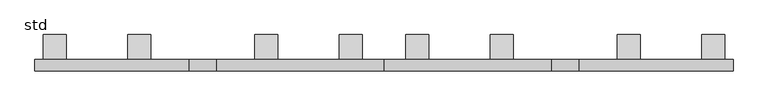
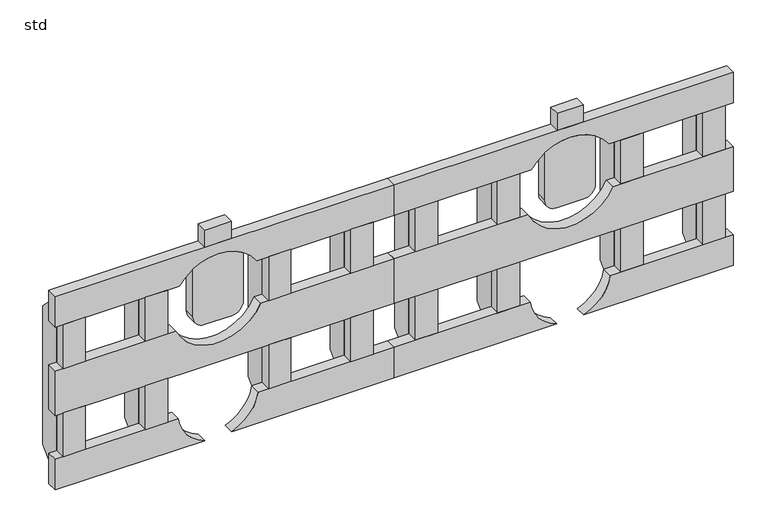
"""IFC4 building model written with IfcOpenShell, lengths in millimetres: unitary equipment geometry, Z_ME_UN_Aquacell_NG_Lateral_Side_Plate_Wavin_(nested) : std."""

from ifc_helpers import new_model, si_unit, point, frame, frame_2d, origin, place, context, project, spatial, polyline, circle_curve, trimmed, segment, composite_curve, outline, extrude, source, transform, mapped, element, save
from ifc_brep_helpers import plane_surface, revolved_surface, advanced_brep


def std_5ed7479e(model_context):
    return source(origin(), model_context, "Body", "SolidModel", [
        extrude(outline(composite_curve([segment(trimmed(circle_curve(frame_2d((264.0, 877.0)), 20.0), [point((264.0, 857.0))], [point((244.0, 877.0))], False, "CARTESIAN"), True, "CONTINUOUS"), segment(polyline([(244.0, 877.0), (244.0, 923.0)]), True, "CONTINUOUS"), segment(trimmed(circle_curve(frame_2d((264.0, 923.0)), 20.0), [point((244.0, 923.0))], [point((264.0, 943.0))], False, "CARTESIAN"), True, "CONTINUOUS"), segment(polyline([(264.0, 943.0), (350.4610999, 943.0)]), True, "CONTINUOUS"), segment(trimmed(circle_curve(frame_2d((283.0, 900.0)), 80.0), [point((350.4610999, 943.0))], [point((350.4610999, 857.0))], False, "CARTESIAN"), True, "CONTINUOUS"), segment(polyline([(350.4610999, 857.0), (264.0, 857.0)]), True, "CONTINUOUS")], self_intersect=False)), frame((0.0, 0.0, 0.0), z_axis=(0.0, 1.0, 0.0), x_axis=(0.0, 0.0, 1.0)), (0.0, 0.0, 1.0), 19.0),
        extrude(outline(composite_curve([segment(trimmed(circle_curve(frame_2d((264.0, 277.0)), 20.0), [point((264.0, 257.0))], [point((244.0, 277.0))], False, "CARTESIAN"), True, "CONTINUOUS"), segment(polyline([(244.0, 277.0), (244.0, 323.0)]), True, "CONTINUOUS"), segment(trimmed(circle_curve(frame_2d((264.0, 323.0)), 20.0), [point((244.0, 323.0))], [point((264.0, 343.0))], False, "CARTESIAN"), True, "CONTINUOUS"), segment(polyline([(264.0, 343.0), (350.4610999, 343.0)]), True, "CONTINUOUS"), segment(trimmed(circle_curve(frame_2d((283.0, 300.0)), 80.0), [point((350.4610999, 343.0))], [point((350.4610999, 257.0))], False, "CARTESIAN"), True, "CONTINUOUS"), segment(polyline([(350.4610999, 257.0), (264.0, 257.0)]), True, "CONTINUOUS")], self_intersect=False)), frame((0.0, 0.0, 0.0), z_axis=(0.0, 1.0, 0.0), x_axis=(0.0, 0.0, 1.0)), (0.0, 0.0, 1.0), 19.0),
        advanced_brep(
        [(972.415468, 19.0, 249.0), (827.584532, 19.0, 249.0), (827.584532, 0.0, 249.0), (972.415468, 0.0, 249.0), (1177.5, 19.0, 249.0), (1177.5, 19.0, 169.0), (900.0, 19.0, 169.0), (600.0, 19.0, 169.0), (600.0, 19.0, 249.0), (600.0, 0.0, 249.0), (600.0, 0.0, 169.0), (900.0, 0.0, 169.0), (1177.5, 0.0, 169.0), (1177.5, 0.0, 249.0)],
        [
            (0, 1, circle_curve(frame((900.0, 19.0, 283.0), z_axis=(0.0, 1.0, 0.0), x_axis=(1.0, 0.0, 0.0)), 80.0)),
            (1, 2),
            (2, 3, circle_curve(frame((900.0, 0.0, 283.0), z_axis=(0.0, -1.0, 0.0), x_axis=(1.0, 0.0, 0.0)), 80.0)),
            (3, 0),
            (4, 5),
            (5, 6),
            (6, 7),
            (7, 8),
            (8, 1),
            (0, 4),
            (9, 10),
            (10, 11),
            (11, 12),
            (12, 13),
            (13, 3),
            (2, 9),
            (13, 4),
            (8, 9),
            (7, 10),
            (5, 12),
        ],
        [
            revolved_surface(polyline([(980.0, 0.0, 283.0), (980.0, 19.0, 283.0)]), (900.0, 19.0, 283.0), (0.0, -1.0, 0.0)),
            plane_surface(frame((600.0, 19.0, 90.0), z_axis=(0.0, 1.0, 0.0), x_axis=(1.0, 0.0, 0.0))),
            plane_surface(frame((600.0, 0.0, 90.0), z_axis=(0.0, -1.0, 0.0), x_axis=(-1.0, 0.0, 0.0))),
            plane_surface(frame((1177.5, 0.0, 249.0), z_axis=(0.0, 0.0, 1.0), x_axis=(0.0, 1.0, 0.0))),
            plane_surface(frame((600.0, 0.0, 249.0), z_axis=(-1.0, 0.0, 0.0), x_axis=(0.0, 1.0, 0.0))),
            plane_surface(frame((600.0, 0.0, 169.0), z_axis=(0.0, 0.0, -1.0), x_axis=(0.0, 1.0, 0.0))),
            plane_surface(frame((1177.5, 0.0, 169.0), z_axis=(1.0, 0.0, 0.0), x_axis=(0.0, 1.0, 0.0))),
        ],
        [
            (0, [[1, 2, 3, 4]]),
            (1, [[5, 6, 7, 8, 9, -1, 10]]),
            (2, [[11, 12, 13, 14, 15, -3, 16]]),
            (3, [[17, -10, -4, -15]]),
            (3, [[18, -16, -2, -9]]),
            (4, [[-8, 19, -11, -18]]),
            (5, [[-19, -7, -6, 20, -13, -12]]),
            (6, [[-5, -17, -14, -20]]),
        ],
    ),
        advanced_brep(
        [(833.8562172, 19.0, 328.0), (966.1437828, 19.0, 328.0), (966.1437828, 0.0, 328.0), (833.8562172, 0.0, 328.0), (1177.5, 19.0, 383.0), (1177.5, 19.0, 328.0), (600.0, 19.0, 328.0), (600.0, 19.0, 383.0), (1177.5, 0.0, 383.0), (600.0, 0.0, 383.0), (600.0, 0.0, 328.0), (1177.5, 0.0, 328.0)],
        [
            (0, 1, circle_curve(frame((900.0, 19.0, 283.0), z_axis=(0.0, 1.0, 0.0), x_axis=(1.0, 0.0, 0.0)), 80.0)),
            (1, 2),
            (2, 3, circle_curve(frame((900.0, 0.0, 283.0), z_axis=(0.0, -1.0, 0.0), x_axis=(1.0, 0.0, 0.0)), 80.0)),
            (3, 0),
            (4, 5),
            (5, 1),
            (0, 6),
            (6, 7),
            (7, 4),
            (8, 9),
            (9, 10),
            (10, 3),
            (2, 11),
            (11, 8),
            (7, 9),
            (8, 4),
            (6, 10),
            (5, 11),
        ],
        [
            revolved_surface(polyline([(980.0, 0.0, 283.0), (980.0, 19.0, 283.0)]), (900.0, 19.0, 283.0), (0.0, -1.0, 0.0)),
            plane_surface(frame((600.0, 19.0, 90.0), z_axis=(0.0, 1.0, 0.0), x_axis=(1.0, 0.0, 0.0))),
            plane_surface(frame((600.0, 0.0, 90.0), z_axis=(0.0, -1.0, 0.0), x_axis=(-1.0, 0.0, 0.0))),
            plane_surface(frame((1177.5, 0.0, 383.0), z_axis=(0.0, 0.0, 1.0), x_axis=(0.0, 1.0, 0.0))),
            plane_surface(frame((600.0, 0.0, 383.0), z_axis=(-1.0, 0.0, 0.0), x_axis=(0.0, 1.0, 0.0))),
            plane_surface(frame((600.0, 0.0, 328.0), z_axis=(0.0, 0.0, -1.0), x_axis=(0.0, 1.0, 0.0))),
            plane_surface(frame((1177.5, 0.0, 328.0), z_axis=(1.0, 0.0, 0.0), x_axis=(0.0, 1.0, 0.0))),
        ],
        [
            (0, [[1, 2, 3, 4]]),
            (1, [[5, 6, -1, 7, 8, 9]]),
            (2, [[10, 11, 12, -3, 13, 14]]),
            (3, [[-9, 15, -10, 16]]),
            (4, [[-8, 17, -11, -15]]),
            (5, [[-17, -7, -4, -12]]),
            (5, [[18, -13, -2, -6]]),
            (6, [[-5, -16, -14, -18]]),
        ],
    ),
        advanced_brep(
        [(1177.5, 19.0, 90.0), (1177.5, 19.0, 35.0), (923.1516738, 19.0, 35.0), (968.2715168, 19.0, 90.0), (1177.5, 0.0, 35.0), (1177.5, 0.0, 90.0), (968.2715168, 0.0, 90.0), (923.1516738, 0.0, 35.0)],
        [
            (0, 1),
            (1, 2),
            (2, 3, circle_curve(frame((900.0, 19.0, 100.0), z_axis=(0.0, -1.0, 0.0), x_axis=(1.0, 0.0, 0.0)), 69.0)),
            (3, 0),
            (4, 5),
            (5, 6),
            (6, 7, circle_curve(frame((900.0, 0.0, 100.0), z_axis=(0.0, 1.0, 0.0), x_axis=(1.0, 0.0, 0.0)), 69.0)),
            (7, 4),
            (5, 0),
            (3, 6),
            (1, 4),
            (7, 2),
        ],
        [
            plane_surface(frame((600.0, 19.0, 90.0), z_axis=(0.0, 1.0, 0.0), x_axis=(1.0, 0.0, 0.0))),
            plane_surface(frame((600.0, 0.0, 90.0), z_axis=(0.0, -1.0, 0.0), x_axis=(-1.0, 0.0, 0.0))),
            plane_surface(frame((1177.5, 0.0, 90.0), z_axis=(0.0, 0.0, 1.0), x_axis=(0.0, 1.0, 0.0))),
            plane_surface(frame((600.0, 0.0, 35.0), z_axis=(0.0, 0.0, -1.0), x_axis=(0.0, 1.0, 0.0))),
            plane_surface(frame((1177.5, 0.0, 35.0), z_axis=(1.0, 0.0, 0.0), x_axis=(0.0, 1.0, 0.0))),
            revolved_surface(polyline([(969.0, 0.0, 100.0), (969.0, 19.0, 100.0)]), (900.0, 19.0, 100.0), (0.0, -1.0, 0.0)),
        ],
        [
            (0, [[1, 2, 3, 4]]),
            (1, [[5, 6, 7, 8]]),
            (2, [[9, -4, 10, -6]]),
            (3, [[11, -8, 12, -2]]),
            (4, [[-1, -9, -5, -11]]),
            (5, [[-3, -12, -7, -10]]),
        ],
    ),
        advanced_brep(
        [(600.0, 19.0, 35.0), (600.0, 19.0, 90.0), (831.7284832, 19.0, 90.0), (876.8483262, 19.0, 35.0), (600.0, 0.0, 90.0), (600.0, 0.0, 35.0), (876.8483262, 0.0, 35.0), (831.7284832, 0.0, 90.0)],
        [
            (0, 1),
            (1, 2),
            (2, 3, circle_curve(frame((900.0, 19.0, 100.0), z_axis=(0.0, -1.0, 0.0), x_axis=(1.0, 0.0, 0.0)), 69.0)),
            (3, 0),
            (4, 5),
            (5, 6),
            (6, 7, circle_curve(frame((900.0, 0.0, 100.0), z_axis=(0.0, 1.0, 0.0), x_axis=(1.0, 0.0, 0.0)), 69.0)),
            (7, 4),
            (1, 4),
            (7, 2),
            (0, 5),
            (3, 6),
        ],
        [
            plane_surface(frame((600.0, 19.0, 90.0), z_axis=(0.0, 1.0, 0.0), x_axis=(1.0, 0.0, 0.0))),
            plane_surface(frame((600.0, 0.0, 90.0), z_axis=(0.0, -1.0, 0.0), x_axis=(-1.0, 0.0, 0.0))),
            plane_surface(frame((1177.5, 0.0, 90.0), z_axis=(0.0, 0.0, 1.0), x_axis=(0.0, 1.0, 0.0))),
            plane_surface(frame((600.0, 0.0, 90.0), z_axis=(-1.0, 0.0, 0.0), x_axis=(0.0, 1.0, 0.0))),
            plane_surface(frame((600.0, 0.0, 35.0), z_axis=(0.0, 0.0, -1.0), x_axis=(0.0, 1.0, 0.0))),
            revolved_surface(polyline([(969.0, 0.0, 100.0), (969.0, 19.0, 100.0)]), (900.0, 19.0, 100.0), (0.0, -1.0, 0.0)),
        ],
        [
            (0, [[1, 2, 3, 4]]),
            (1, [[5, 6, 7, 8]]),
            (2, [[9, -8, 10, -2]]),
            (3, [[-1, 11, -5, -9]]),
            (4, [[-11, -4, 12, -6]]),
            (5, [[-3, -10, -7, -12]]),
        ],
    ),
        extrude(outline(polyline([(214.0, 0.0), (176.0, 0.0), (176.0, 19.0), (214.0, 19.0), (214.0, 0.0)])), frame((0.0, 0.0, 90.0), z_axis=(0.0, 0.0, 1.0), x_axis=(1.0, 0.0, 0.0)), (0.0, 0.0, 1.0), 79.0),
        extrude(outline(polyline([(214.0, 0.0), (176.0, 0.0), (176.0, 19.0), (214.0, 19.0), (214.0, 0.0)])), frame((0.0, 0.0, 249.0), z_axis=(0.0, 0.0, 1.0), x_axis=(1.0, 0.0, 0.0)), (0.0, 0.0, 1.0), 79.0),
        extrude(outline(polyline([(424.0, 0.0), (386.0, 0.0), (386.0, 19.0), (424.0, 19.0), (424.0, 0.0)])), frame((0.0, 0.0, 90.0), z_axis=(0.0, 0.0, 1.0), x_axis=(1.0, 0.0, 0.0)), (0.0, 0.0, 1.0), 79.0),
        extrude(outline(polyline([(424.0, 0.0), (386.0, 0.0), (386.0, 19.0), (424.0, 19.0), (424.0, 0.0)])), frame((0.0, 0.0, 249.0), z_axis=(0.0, 0.0, 1.0), x_axis=(1.0, 0.0, 0.0)), (0.0, 0.0, 1.0), 79.0),
        extrude(outline(polyline([(19.0, 35.0), (19.0, 367.0), (60.0, 326.0), (60.0, 76.0), (19.0, 35.0)])), frame((1126.0, 0.0, 0.0), z_axis=(1.0, 0.0, 0.0), x_axis=(0.0, 1.0, 0.0)), (0.0, 0.0, 1.0), 38.0),
        extrude(outline(polyline([(19.0, 35.0), (19.0, 367.0), (60.0, 326.0), (60.0, 76.0), (19.0, 35.0)])), frame((986.0, 0.0, 0.0), z_axis=(1.0, 0.0, 0.0), x_axis=(0.0, 1.0, 0.0)), (0.0, 0.0, 1.0), 38.0),
        extrude(outline(polyline([(19.0, 35.0), (19.0, 367.0), (60.0, 326.0), (60.0, 76.0), (19.0, 35.0)])), frame((776.0, 0.0, 0.0), z_axis=(1.0, 0.0, 0.0), x_axis=(0.0, 1.0, 0.0)), (0.0, 0.0, 1.0), 38.0),
        extrude(outline(polyline([(19.0, 35.0), (19.0, 367.0), (60.0, 326.0), (60.0, 76.0), (19.0, 35.0)])), frame((636.0, 0.0, 0.0), z_axis=(1.0, 0.0, 0.0), x_axis=(0.0, 1.0, 0.0)), (0.0, 0.0, 1.0), 38.0),
        extrude(outline(polyline([(19.0, 35.0), (19.0, 367.0), (60.0, 326.0), (60.0, 76.0), (19.0, 35.0)])), frame((526.0, 0.0, 0.0), z_axis=(1.0, 0.0, 0.0), x_axis=(0.0, 1.0, 0.0)), (0.0, 0.0, 1.0), 38.0),
        extrude(outline(polyline([(19.0, 35.0), (19.0, 367.0), (60.0, 326.0), (60.0, 76.0), (19.0, 35.0)])), frame((386.0, 0.0, 0.0), z_axis=(1.0, 0.0, 0.0), x_axis=(0.0, 1.0, 0.0)), (0.0, 0.0, 1.0), 38.0),
        extrude(outline(polyline([(19.0, 35.0), (19.0, 367.0), (60.0, 326.0), (60.0, 76.0), (19.0, 35.0)])), frame((176.0, 0.0, 0.0), z_axis=(1.0, 0.0, 0.0), x_axis=(0.0, 1.0, 0.0)), (0.0, 0.0, 1.0), 38.0),
        extrude(outline(polyline([(19.0, 35.0), (19.0, 367.0), (60.0, 326.0), (60.0, 76.0), (19.0, 35.0)])), frame((36.0, 0.0, 0.0), z_axis=(1.0, 0.0, 0.0), x_axis=(0.0, 1.0, 0.0)), (0.0, 0.0, 1.0), 38.0),
        extrude(outline(polyline([(1164.0, 0.0), (1126.0, 0.0), (1126.0, 19.0), (1164.0, 19.0), (1164.0, 0.0)])), frame((0.0, 0.0, 90.0), z_axis=(0.0, 0.0, 1.0), x_axis=(1.0, 0.0, 0.0)), (0.0, 0.0, 1.0), 79.0),
        extrude(outline(polyline([(1164.0, 0.0), (1126.0, 0.0), (1126.0, 19.0), (1164.0, 19.0), (1164.0, 0.0)])), frame((0.0, 0.0, 249.0), z_axis=(0.0, 0.0, 1.0), x_axis=(1.0, 0.0, 0.0)), (0.0, 0.0, 1.0), 79.0),
        extrude(outline(polyline([(1024.0, 0.0), (986.0, 0.0), (986.0, 19.0), (1024.0, 19.0), (1024.0, 0.0)])), frame((0.0, 0.0, 90.0), z_axis=(0.0, 0.0, 1.0), x_axis=(1.0, 0.0, 0.0)), (0.0, 0.0, 1.0), 79.0),
        extrude(outline(polyline([(1024.0, 0.0), (986.0, 0.0), (986.0, 19.0), (1024.0, 19.0), (1024.0, 0.0)])), frame((0.0, 0.0, 249.0), z_axis=(0.0, 0.0, 1.0), x_axis=(1.0, 0.0, 0.0)), (0.0, 0.0, 1.0), 79.0),
        extrude(outline(polyline([(814.0, 0.0), (776.0, 0.0), (776.0, 19.0), (814.0, 19.0), (814.0, 0.0)])), frame((0.0, 0.0, 90.0), z_axis=(0.0, 0.0, 1.0), x_axis=(1.0, 0.0, 0.0)), (0.0, 0.0, 1.0), 79.0),
        extrude(outline(polyline([(814.0, 0.0), (776.0, 0.0), (776.0, 19.0), (814.0, 19.0), (814.0, 0.0)])), frame((0.0, 0.0, 249.0), z_axis=(0.0, 0.0, 1.0), x_axis=(1.0, 0.0, 0.0)), (0.0, 0.0, 1.0), 79.0),
        extrude(outline(polyline([(674.0, 0.0), (636.0, 0.0), (636.0, 19.0), (674.0, 19.0), (674.0, 0.0)])), frame((0.0, 0.0, 90.0), z_axis=(0.0, 0.0, 1.0), x_axis=(1.0, 0.0, 0.0)), (0.0, 0.0, 1.0), 79.0),
        extrude(outline(polyline([(674.0, 0.0), (636.0, 0.0), (636.0, 19.0), (674.0, 19.0), (674.0, 0.0)])), frame((0.0, 0.0, 249.0), z_axis=(0.0, 0.0, 1.0), x_axis=(1.0, 0.0, 0.0)), (0.0, 0.0, 1.0), 79.0),
        extrude(outline(polyline([(564.0, 0.0), (526.0, 0.0), (526.0, 19.0), (564.0, 19.0), (564.0, 0.0)])), frame((0.0, 0.0, 90.0), z_axis=(0.0, 0.0, 1.0), x_axis=(1.0, 0.0, 0.0)), (0.0, 0.0, 1.0), 79.0),
        extrude(outline(polyline([(564.0, 0.0), (526.0, 0.0), (526.0, 19.0), (564.0, 19.0), (564.0, 0.0)])), frame((0.0, 0.0, 249.0), z_axis=(0.0, 0.0, 1.0), x_axis=(1.0, 0.0, 0.0)), (0.0, 0.0, 1.0), 79.0),
        extrude(outline(polyline([(74.0, 0.0), (36.0, 0.0), (36.0, 19.0), (74.0, 19.0), (74.0, 0.0)])), frame((0.0, 0.0, 90.0), z_axis=(0.0, 0.0, 1.0), x_axis=(1.0, 0.0, 0.0)), (0.0, 0.0, 1.0), 79.0),
        extrude(outline(polyline([(74.0, 0.0), (36.0, 0.0), (36.0, 19.0), (74.0, 19.0), (74.0, 0.0)])), frame((0.0, 0.0, 249.0), z_axis=(0.0, 0.0, 1.0), x_axis=(1.0, 0.0, 0.0)), (0.0, 0.0, 1.0), 79.0),
        extrude(outline(polyline([(922.5, 19.0), (922.5, 0.0), (877.5, 0.0), (877.5, 19.0), (922.5, 19.0)])), frame((0.0, 0.0, 383.0), z_axis=(0.0, 0.0, 1.0), x_axis=(1.0, 0.0, 0.0)), (0.0, 0.0, 1.0), 31.0),
        extrude(outline(polyline([(322.5, 19.0), (322.5, 0.0), (277.5, 0.0), (277.5, 19.0), (322.5, 19.0)])), frame((0.0, 0.0, 383.0), z_axis=(0.0, 0.0, 1.0), x_axis=(1.0, 0.0, 0.0)), (0.0, 0.0, 1.0), 31.0),
        advanced_brep(
        [(600.0, 19.0, 383.0), (600.0, 19.0, 328.0), (366.1437828, 19.0, 328.0), (233.8562172, 19.0, 328.0), (22.5, 19.0, 328.0), (22.5, 19.0, 383.0), (600.0, 0.0, 383.0), (22.5, 0.0, 383.0), (22.5, 0.0, 328.0), (233.8562172, 0.0, 328.0), (366.1437828, 0.0, 328.0), (600.0, 0.0, 328.0)],
        [
            (0, 1),
            (1, 2),
            (2, 3, circle_curve(frame((300.0, 19.0, 283.0), z_axis=(0.0, -1.0, 0.0), x_axis=(1.0, 0.0, 0.0)), 80.0)),
            (3, 4),
            (4, 5),
            (5, 0),
            (6, 7),
            (7, 8),
            (8, 9),
            (9, 10, circle_curve(frame((300.0, 0.0, 283.0), z_axis=(0.0, 1.0, 0.0), x_axis=(1.0, 0.0, 0.0)), 80.0)),
            (10, 11),
            (11, 6),
            (5, 7),
            (6, 0),
            (8, 4),
            (3, 9),
            (1, 11),
            (10, 2),
        ],
        [
            plane_surface(frame((22.5, 19.0, 90.0), z_axis=(0.0, 1.0, 0.0), x_axis=(1.0, 0.0, 0.0))),
            plane_surface(frame((22.5, 0.0, 90.0), z_axis=(0.0, -1.0, 0.0), x_axis=(-1.0, 0.0, 0.0))),
            plane_surface(frame((600.0, 0.0, 383.0), z_axis=(0.0, 0.0, 1.0), x_axis=(0.0, 1.0, 0.0))),
            plane_surface(frame((22.5, 0.0, 328.0), z_axis=(0.0, 0.0, -1.0), x_axis=(0.0, 1.0, 0.0))),
            plane_surface(frame((22.5, 0.0, 383.0), z_axis=(-1.0, 0.0, 0.0), x_axis=(0.0, 1.0, 0.0))),
            plane_surface(frame((600.0, 0.0, 328.0), z_axis=(1.0, 0.0, 0.0), x_axis=(0.0, 1.0, 0.0))),
            revolved_surface(polyline([(380.0, 0.0, 283.0), (380.0, 19.0, 283.0)]), (300.0, 19.0, 283.0), (0.0, -1.0, 0.0)),
        ],
        [
            (0, [[1, 2, 3, 4, 5, 6]]),
            (1, [[7, 8, 9, 10, 11, 12]]),
            (2, [[-6, 13, -7, 14]]),
            (3, [[15, -4, 16, -9]]),
            (3, [[17, -11, 18, -2]]),
            (4, [[-5, -15, -8, -13]]),
            (5, [[-1, -14, -12, -17]]),
            (6, [[-3, -18, -10, -16]]),
        ],
    ),
        advanced_brep(
        [(600.0, 19.0, 90.0), (600.0, 19.0, 35.0), (323.1516738, 19.0, 35.0), (368.2715168, 19.0, 90.0), (600.0, 0.0, 35.0), (600.0, 0.0, 90.0), (368.2715168, 0.0, 90.0), (323.1516738, 0.0, 35.0)],
        [
            (0, 1),
            (1, 2),
            (2, 3, circle_curve(frame((300.0, 19.0, 100.0), z_axis=(0.0, -1.0, 0.0), x_axis=(1.0, 0.0, 0.0)), 69.0)),
            (3, 0),
            (4, 5),
            (5, 6),
            (6, 7, circle_curve(frame((300.0, 0.0, 100.0), z_axis=(0.0, 1.0, 0.0), x_axis=(1.0, 0.0, 0.0)), 69.0)),
            (7, 4),
            (5, 0),
            (3, 6),
            (1, 4),
            (7, 2),
        ],
        [
            plane_surface(frame((22.5, 19.0, 90.0), z_axis=(0.0, 1.0, 0.0), x_axis=(1.0, 0.0, 0.0))),
            plane_surface(frame((22.5, 0.0, 90.0), z_axis=(0.0, -1.0, 0.0), x_axis=(-1.0, 0.0, 0.0))),
            plane_surface(frame((600.0, 0.0, 90.0), z_axis=(0.0, 0.0, 1.0), x_axis=(0.0, 1.0, 0.0))),
            plane_surface(frame((22.5, 0.0, 35.0), z_axis=(0.0, 0.0, -1.0), x_axis=(0.0, 1.0, 0.0))),
            plane_surface(frame((600.0, 0.0, 35.0), z_axis=(1.0, 0.0, 0.0), x_axis=(0.0, 1.0, 0.0))),
            revolved_surface(polyline([(369.0, 0.0, 100.0), (369.0, 19.0, 100.0)]), (300.0, 19.0, 100.0), (0.0, -1.0, 0.0)),
        ],
        [
            (0, [[1, 2, 3, 4]]),
            (1, [[5, 6, 7, 8]]),
            (2, [[9, -4, 10, -6]]),
            (3, [[11, -8, 12, -2]]),
            (4, [[-1, -9, -5, -11]]),
            (5, [[-3, -12, -7, -10]]),
        ],
    ),
        advanced_brep(
        [(22.5, 19.0, 35.0), (22.5, 19.0, 90.0), (231.7284832, 19.0, 90.0), (276.8483262, 19.0, 35.0), (22.5, 0.0, 90.0), (22.5, 0.0, 35.0), (276.8483262, 0.0, 35.0), (231.7284832, 0.0, 90.0)],
        [
            (0, 1),
            (1, 2),
            (2, 3, circle_curve(frame((300.0, 19.0, 100.0), z_axis=(0.0, -1.0, 0.0), x_axis=(1.0, 0.0, 0.0)), 69.0)),
            (3, 0),
            (4, 5),
            (5, 6),
            (6, 7, circle_curve(frame((300.0, 0.0, 100.0), z_axis=(0.0, 1.0, 0.0), x_axis=(1.0, 0.0, 0.0)), 69.0)),
            (7, 4),
            (1, 4),
            (7, 2),
            (5, 0),
            (3, 6),
        ],
        [
            plane_surface(frame((22.5, 19.0, 90.0), z_axis=(0.0, 1.0, 0.0), x_axis=(1.0, 0.0, 0.0))),
            plane_surface(frame((22.5, 0.0, 90.0), z_axis=(0.0, -1.0, 0.0), x_axis=(-1.0, 0.0, 0.0))),
            plane_surface(frame((600.0, 0.0, 90.0), z_axis=(0.0, 0.0, 1.0), x_axis=(0.0, 1.0, 0.0))),
            plane_surface(frame((22.5, 0.0, 35.0), z_axis=(0.0, 0.0, -1.0), x_axis=(0.0, 1.0, 0.0))),
            plane_surface(frame((22.5, 0.0, 90.0), z_axis=(-1.0, 0.0, 0.0), x_axis=(0.0, 1.0, 0.0))),
            revolved_surface(polyline([(369.0, 0.0, 100.0), (369.0, 19.0, 100.0)]), (300.0, 19.0, 100.0), (0.0, -1.0, 0.0)),
        ],
        [
            (0, [[1, 2, 3, 4]]),
            (1, [[5, 6, 7, 8]]),
            (2, [[9, -8, 10, -2]]),
            (3, [[11, -4, 12, -6]]),
            (4, [[-1, -11, -5, -9]]),
            (5, [[-3, -10, -7, -12]]),
        ],
    ),
        advanced_brep(
        [(600.0, 19.0, 249.0), (600.0, 19.0, 169.0), (300.0, 19.0, 169.0), (22.5, 19.0, 169.0), (22.5, 19.0, 249.0), (227.584532, 19.0, 249.0), (372.415468, 19.0, 249.0), (22.5, 0.0, 249.0), (22.5, 0.0, 169.0), (300.0, 0.0, 169.0), (600.0, 0.0, 169.0), (600.0, 0.0, 249.0), (372.415468, 0.0, 249.0), (227.584532, 0.0, 249.0)],
        [
            (0, 1),
            (1, 2),
            (2, 3),
            (3, 4),
            (4, 5),
            (5, 6, circle_curve(frame((300.0, 19.0, 283.0), z_axis=(0.0, -1.0, 0.0), x_axis=(1.0, 0.0, 0.0)), 80.0)),
            (6, 0),
            (7, 8),
            (8, 9),
            (9, 10),
            (10, 11),
            (11, 12),
            (12, 13, circle_curve(frame((300.0, 0.0, 283.0), z_axis=(0.0, 1.0, 0.0), x_axis=(1.0, 0.0, 0.0)), 80.0)),
            (13, 7),
            (11, 0),
            (6, 12),
            (4, 7),
            (13, 5),
            (8, 3),
            (1, 10),
        ],
        [
            plane_surface(frame((22.5, 19.0, 90.0), z_axis=(0.0, 1.0, 0.0), x_axis=(1.0, 0.0, 0.0))),
            plane_surface(frame((22.5, 0.0, 90.0), z_axis=(0.0, -1.0, 0.0), x_axis=(-1.0, 0.0, 0.0))),
            plane_surface(frame((600.0, 0.0, 249.0), z_axis=(0.0, 0.0, 1.0), x_axis=(0.0, 1.0, 0.0))),
            plane_surface(frame((22.5, 0.0, 169.0), z_axis=(0.0, 0.0, -1.0), x_axis=(0.0, 1.0, 0.0))),
            plane_surface(frame((22.5, 0.0, 249.0), z_axis=(-1.0, 0.0, 0.0), x_axis=(0.0, 1.0, 0.0))),
            plane_surface(frame((600.0, 0.0, 169.0), z_axis=(1.0, 0.0, 0.0), x_axis=(0.0, 1.0, 0.0))),
            revolved_surface(polyline([(380.0, 0.0, 283.0), (380.0, 19.0, 283.0)]), (300.0, 19.0, 283.0), (0.0, -1.0, 0.0)),
        ],
        [
            (0, [[1, 2, 3, 4, 5, 6, 7]]),
            (1, [[8, 9, 10, 11, 12, 13, 14]]),
            (2, [[15, -7, 16, -12]]),
            (2, [[17, -14, 18, -5]]),
            (3, [[19, -3, -2, 20, -10, -9]]),
            (4, [[-4, -19, -8, -17]]),
            (5, [[-1, -15, -11, -20]]),
            (6, [[-6, -18, -13, -16]]),
        ],
    ),
    ])


if __name__ == "__main__":
    model = new_model("IFC4")
    model_context = context("Model", 3, world=origin())
    ifc_project = project(units=[si_unit("LENGTHUNIT", "METRE", prefix="MILLI")], contexts=[model_context])
    site = spatial("IfcSite", under=ifc_project)
    building = spatial("IfcBuilding", under=site)
    placement = place(None, origin())
    std_shape = std_5ed7479e(model_context)
    element("IfcUnitaryEquipment", 1, ObjectType="Z_ME_UN_Aquacell_NG_Lateral_Side_Plate_Wavin_(nested) : std", at=placement, inside=building, context=model_context, shape_type="MappedRepresentation", body=[
        mapped(std_shape, transform((0.0, 0.0, 0.0), x_axis=(1.0, 0.0, 0.0), y_axis=(0.0, 1.0, 0.0), z_axis=(0.0, 0.0, 1.0))),
    ])
    save(model, "model.ifc")
